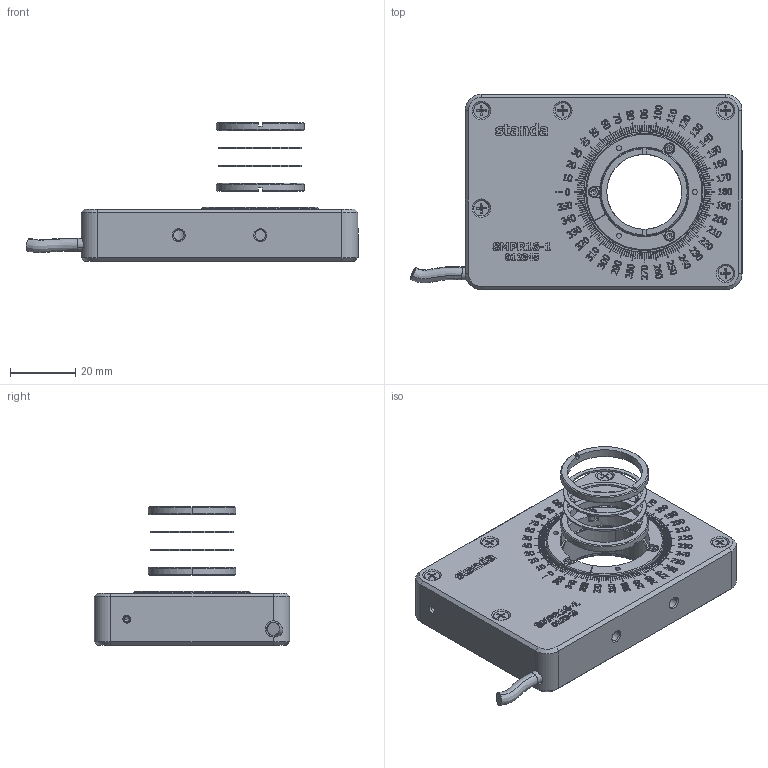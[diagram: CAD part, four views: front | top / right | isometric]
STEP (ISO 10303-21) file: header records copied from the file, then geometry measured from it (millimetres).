
FILE_DESCRIPTION((''),'2;1');
FILE_NAME('8MPR16-1 SB.stp','2017-09-20T08:58:48',(''),(''),'Mechanical Desktop 2011','Mechanical Desktop 2011',', , ');
FILE_SCHEMA(('CONFIG_CONTROL_DESIGN'));
Length unit declared in the file: millimetre
Products named in the file (1): Product
Bounding box: 101.9 x 60 x 42.5 mm (x, y, z)
Volume: 71799.2 mm3; surface area: 20008 mm2
Topology: 5 solids, 27 shells, 3492 faces, 9651 edges, 6401 vertices
Faces by surface type: plane 1768, bspline 1367, cone 194, cylinder 113, torus 50
Entity records: 127777 total; most frequent: CARTESIAN_POINT 47148, ORIENTED_EDGE 19232, DIRECTION 12382, EDGE_CURVE 9616, VERTEX_POINT 6401, VECTOR 5626, LINE 5626, EDGE_LOOP 3759
